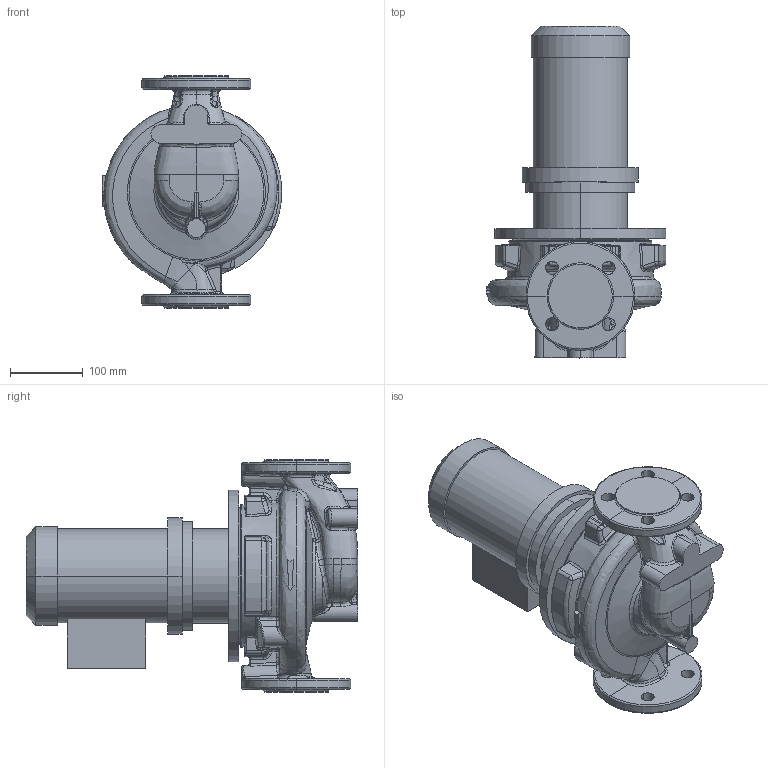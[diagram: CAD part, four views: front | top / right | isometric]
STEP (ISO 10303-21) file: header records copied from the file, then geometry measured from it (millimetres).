
FILE_DESCRIPTION (( 'STEP AP214' ), '1' );
FILE_NAME ('KRL 40-160-4-0,37.STEP', '2026-03-18T05:33:22', ( '' ), ( '' ), 'SwSTEP 2.0', 'SolidWorks 2016', '' );
FILE_SCHEMA (( 'AUTOMOTIVE_DESIGN' ));
Length unit declared in the file: millimetre
Products named in the file (1): KRL 40-160-4-0,37
Bounding box: 248 x 457.3 x 320 mm (x, y, z)
Volume: 10956749.6 mm3; surface area: 659062 mm2
Topology: 4 solids, 4 shells, 713 faces, 1716 edges, 1000 vertices
Faces by surface type: bspline 353, cylinder 126, plane 97, torus 52, cone 45, sphere 40
Entity records: 82362 total; most frequent: CARTESIAN_POINT 60963, ORIENTED_EDGE 3374, DIRECTION 2051, EDGE_CURVE 1687, VERTEX_POINT 1000, AXIS2_PLACEMENT_3D 902, B_SPLINE_CURVE_WITH_KNOTS 828, EDGE_LOOP 747
